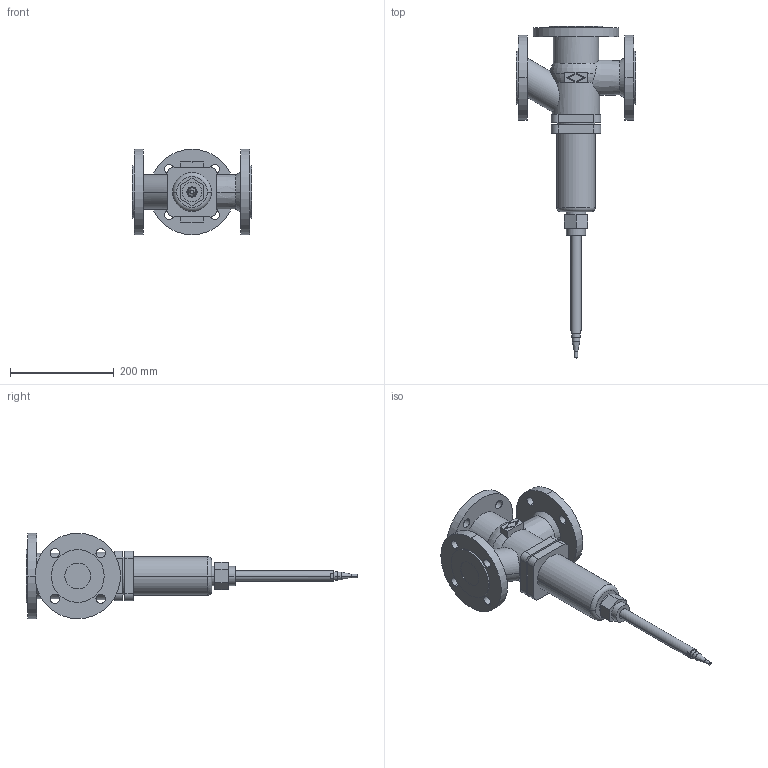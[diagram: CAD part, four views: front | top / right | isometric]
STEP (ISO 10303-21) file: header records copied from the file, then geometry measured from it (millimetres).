
FILE_DESCRIPTION(('CoCreate Modeling STEP Export'),'2;1');
FILE_NAME('c000004731.stp','2011-09-23T12:31:15',(''),(''),'CoCreate Modeling STEP processor for AP214 (Solid Model)','CoCreate Modeling 17.0 01-Apr-2010 (C) Parametric Technology GmbH','');
FILE_SCHEMA(('AUTOMOTIVE_DESIGN { 1 0 10303 214 1 1 1 1 }'));
Length unit declared in the file: millimetre
Products named in the file (1): 1
Bounding box: 230 x 641.44 x 165 mm (x, y, z)
Volume: 3639458.5 mm3; surface area: 301990.9 mm2
Topology: 1 solids, 1 shells, 144 faces, 355 edges, 233 vertices
Faces by surface type: cylinder 70, plane 60, torus 8, cone 6
Entity records: 5201 total; most frequent: CARTESIAN_POINT 890, ORIENTED_EDGE 710, DIRECTION 568, EDGE_CURVE 355, VERTEX_POINT 233, AXIS2_PLACEMENT_3D 199, EDGE_LOOP 188, VECTOR 170
